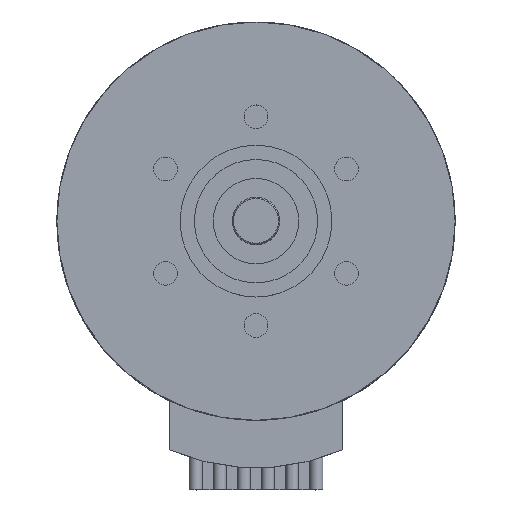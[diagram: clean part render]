
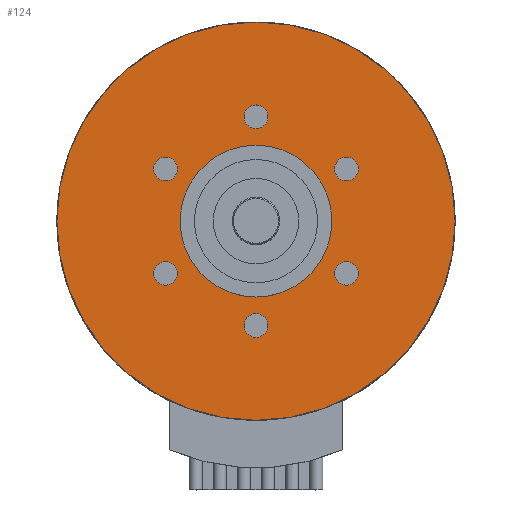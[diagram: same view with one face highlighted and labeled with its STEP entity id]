
A CAD part, top view. The second image highlights one B-rep face of the part: STEP entity #124.
In plain terms, the highlighted planar face has unit normal (0, 0, 1).
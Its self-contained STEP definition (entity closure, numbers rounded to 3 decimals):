
#124=ADVANCED_FACE('',(#278,#279,#280,#281,#282,#283,#284,#285),#175,.T.);
#175=PLANE('',#1091);
#238=CIRCLE('',#1082,8.);
#239=CIRCLE('',#1084,1.25);
#240=CIRCLE('',#1085,1.25);
#241=CIRCLE('',#1086,1.25);
#242=CIRCLE('',#1087,1.25);
#243=CIRCLE('',#1088,1.25);
#244=CIRCLE('',#1089,1.25);
#245=CIRCLE('',#1090,21.);
#278=FACE_BOUND('',#338,.T.);
#279=FACE_BOUND('',#339,.T.);
#280=FACE_BOUND('',#340,.T.);
#281=FACE_BOUND('',#341,.T.);
#282=FACE_BOUND('',#342,.T.);
#283=FACE_BOUND('',#343,.T.);
#284=FACE_BOUND('',#344,.T.);
#285=FACE_BOUND('',#345,.T.);
#338=EDGE_LOOP('',(#498));
#339=EDGE_LOOP('',(#499));
#340=EDGE_LOOP('',(#500));
#341=EDGE_LOOP('',(#501));
#342=EDGE_LOOP('',(#502));
#343=EDGE_LOOP('',(#503));
#344=EDGE_LOOP('',(#504));
#345=EDGE_LOOP('',(#505));
#498=ORIENTED_EDGE('',*,*,#836,.T.);
#499=ORIENTED_EDGE('',*,*,#837,.T.);
#500=ORIENTED_EDGE('',*,*,#838,.T.);
#501=ORIENTED_EDGE('',*,*,#839,.T.);
#502=ORIENTED_EDGE('',*,*,#840,.T.);
#503=ORIENTED_EDGE('',*,*,#841,.T.);
#504=ORIENTED_EDGE('',*,*,#835,.F.);
#505=ORIENTED_EDGE('',*,*,#842,.F.);
#727=VERTEX_POINT('',#1634);
#728=VERTEX_POINT('',#1637);
#729=VERTEX_POINT('',#1639);
#730=VERTEX_POINT('',#1641);
#731=VERTEX_POINT('',#1643);
#732=VERTEX_POINT('',#1645);
#733=VERTEX_POINT('',#1647);
#734=VERTEX_POINT('',#1649);
#835=EDGE_CURVE('',#727,#727,#238,.T.);
#836=EDGE_CURVE('',#728,#728,#239,.T.);
#837=EDGE_CURVE('',#729,#729,#240,.T.);
#838=EDGE_CURVE('',#730,#730,#241,.T.);
#839=EDGE_CURVE('',#731,#731,#242,.T.);
#840=EDGE_CURVE('',#732,#732,#243,.T.);
#841=EDGE_CURVE('',#733,#733,#244,.T.);
#842=EDGE_CURVE('',#734,#734,#245,.T.);
#1082=AXIS2_PLACEMENT_3D('',#1633,#1302,#1303);
#1084=AXIS2_PLACEMENT_3D('',#1636,#1306,#1307);
#1085=AXIS2_PLACEMENT_3D('',#1638,#1308,#1309);
#1086=AXIS2_PLACEMENT_3D('',#1640,#1310,#1311);
#1087=AXIS2_PLACEMENT_3D('',#1642,#1312,#1313);
#1088=AXIS2_PLACEMENT_3D('',#1644,#1314,#1315);
#1089=AXIS2_PLACEMENT_3D('',#1646,#1316,#1317);
#1090=AXIS2_PLACEMENT_3D('',#1648,#1318,#1319);
#1091=AXIS2_PLACEMENT_3D('',#1650,#1320,#1321);
#1302=DIRECTION('',(0.,0.,1.));
#1303=DIRECTION('',(1.,0.,0.));
#1306=DIRECTION('',(0.,0.,-1.));
#1307=DIRECTION('',(-0.5,0.866,0.));
#1308=DIRECTION('',(0.,0.,-1.));
#1309=DIRECTION('',(0.5,0.866,0.));
#1310=DIRECTION('',(0.,0.,-1.));
#1311=DIRECTION('',(1.,0.,0.));
#1312=DIRECTION('',(0.,0.,-1.));
#1313=DIRECTION('',(0.5,-0.866,0.));
#1314=DIRECTION('',(0.,0.,-1.));
#1315=DIRECTION('',(-0.5,-0.866,0.));
#1316=DIRECTION('',(0.,0.,-1.));
#1317=DIRECTION('',(-1.,0.,0.));
#1318=DIRECTION('',(0.,0.,-1.));
#1319=DIRECTION('',(1.,0.,0.));
#1320=DIRECTION('',(0.,0.,1.));
#1321=DIRECTION('',(1.,0.,0.));
#1633=CARTESIAN_POINT('',(0.,0.,0.));
#1634=CARTESIAN_POINT('',(8.,0.,0.));
#1636=CARTESIAN_POINT('',(9.526,5.5,0.));
#1637=CARTESIAN_POINT('',(8.901,6.583,0.));
#1638=CARTESIAN_POINT('',(9.526,-5.5,0.));
#1639=CARTESIAN_POINT('',(10.151,-4.417,0.));
#1640=CARTESIAN_POINT('',(0.,-11.,0.));
#1641=CARTESIAN_POINT('',(1.25,-11.,0.));
#1642=CARTESIAN_POINT('',(-9.526,-5.5,0.));
#1643=CARTESIAN_POINT('',(-8.901,-6.583,0.));
#1644=CARTESIAN_POINT('',(-9.526,5.5,0.));
#1645=CARTESIAN_POINT('',(-10.151,4.417,0.));
#1646=CARTESIAN_POINT('',(0.,11.,0.));
#1647=CARTESIAN_POINT('',(-1.25,11.,0.));
#1648=CARTESIAN_POINT('',(0.,0.,0.));
#1649=CARTESIAN_POINT('',(21.,0.,0.));
#1650=CARTESIAN_POINT('',(0.,0.,0.));
